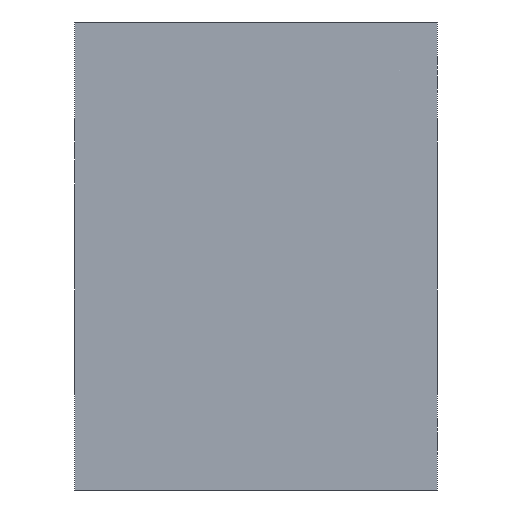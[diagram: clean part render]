
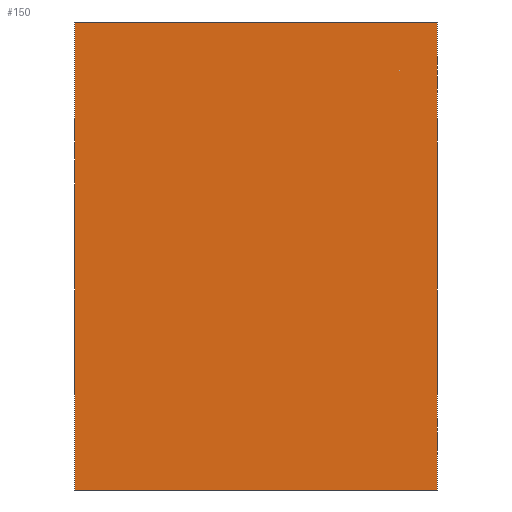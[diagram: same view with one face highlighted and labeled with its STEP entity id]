
A CAD part, front view. The second image highlights one B-rep face of the part: STEP entity #150.
In plain terms, the highlighted planar face has unit normal (0, -1, 0).
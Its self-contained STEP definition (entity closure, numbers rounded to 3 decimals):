
#107=PLANE('',#623);
#121=FACE_OUTER_BOUND('',#297,.T.);
#123=LINE('',#875,#135);
#124=LINE('',#878,#136);
#125=LINE('',#880,#137);
#126=LINE('',#882,#138);
#135=VECTOR('',#711,1.);
#136=VECTOR('',#712,1.);
#137=VECTOR('',#713,1.);
#138=VECTOR('',#714,1.);
#150=ADVANCED_FACE('',(#121),#107,.F.);
#297=EDGE_LOOP('',(#379,#380,#381,#382));
#379=ORIENTED_EDGE('',*,*,#531,.T.);
#380=ORIENTED_EDGE('',*,*,#532,.F.);
#381=ORIENTED_EDGE('',*,*,#533,.F.);
#382=ORIENTED_EDGE('',*,*,#534,.T.);
#479=VERTEX_POINT('',#876);
#480=VERTEX_POINT('',#877);
#481=VERTEX_POINT('',#879);
#482=VERTEX_POINT('',#881);
#531=EDGE_CURVE('',#479,#480,#123,.T.);
#532=EDGE_CURVE('',#481,#480,#124,.T.);
#533=EDGE_CURVE('',#482,#481,#125,.T.);
#534=EDGE_CURVE('',#482,#479,#126,.T.);
#623=AXIS2_PLACEMENT_3D('',#883,#715,#716);
#711=DIRECTION('',(0.,0.,1.));
#712=DIRECTION('',(1.,0.,0.));
#713=DIRECTION('',(0.,0.,1.));
#714=DIRECTION('',(1.,0.,0.));
#715=DIRECTION('',(0.,1.,0.));
#716=DIRECTION('',(0.,0.,1.));
#875=CARTESIAN_POINT('',(0.,-60.,-53.));
#876=CARTESIAN_POINT('',(0.,-60.,-53.));
#877=CARTESIAN_POINT('',(0.,-60.,53.));
#878=CARTESIAN_POINT('',(-82.,-60.,53.));
#879=CARTESIAN_POINT('',(-82.,-60.,53.));
#880=CARTESIAN_POINT('',(-82.,-60.,-53.));
#881=CARTESIAN_POINT('',(-82.,-60.,-53.));
#882=CARTESIAN_POINT('',(-82.,-60.,-53.));
#883=CARTESIAN_POINT('',(-82.,-60.,-53.));
